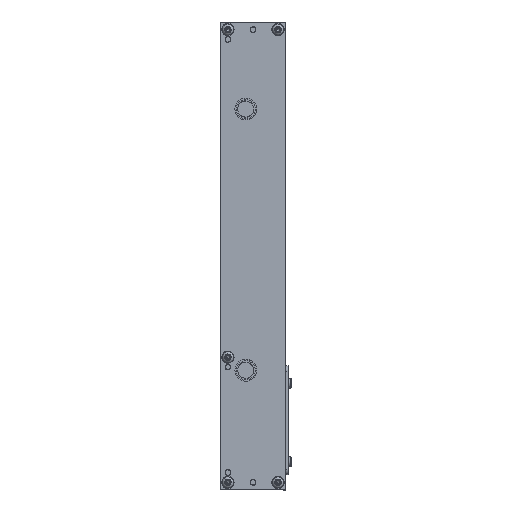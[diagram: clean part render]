
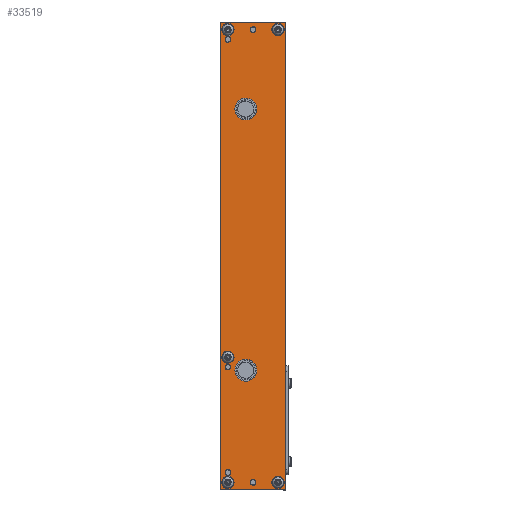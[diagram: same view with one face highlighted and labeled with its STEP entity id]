
A CAD part, left-side view. The second image highlights one B-rep face of the part: STEP entity #33519.
In plain terms, the highlighted planar face has unit normal (-1, 0, 0).
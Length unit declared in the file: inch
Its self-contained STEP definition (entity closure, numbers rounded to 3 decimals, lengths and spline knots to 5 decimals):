
#32388=CARTESIAN_POINT('',(0.,1.325,10.2875));
#32389=VERTEX_POINT('',#32388);
#32390=CARTESIAN_POINT('',(0.,1.325,10.35));
#32391=DIRECTION('',(1.0,0.0,0.0));
#32392=DIRECTION('',(0.0,0.0,-1.0));
#32393=AXIS2_PLACEMENT_3D('',#32390,#32391,#32392);
#32394=CIRCLE('',#32393,0.0625);
#32395=EDGE_CURVE('',#32389,#32389,#32394,.T.);
#32416=CARTESIAN_POINT('',(0.0,0.75,10.5125));
#32417=VERTEX_POINT('',#32416);
#32418=CARTESIAN_POINT('',(0.0,0.75,10.575));
#32419=DIRECTION('',(1.0,0.0,0.0));
#32420=DIRECTION('',(0.0,0.0,-1.0));
#32421=AXIS2_PLACEMENT_3D('',#32418,#32419,#32420);
#32422=CIRCLE('',#32421,0.0625);
#32423=EDGE_CURVE('',#32417,#32417,#32422,.T.);
#32444=CARTESIAN_POINT('',(0.0,0.75,0.1125));
#32445=VERTEX_POINT('',#32444);
#32446=CARTESIAN_POINT('',(0.0,0.75,0.175));
#32447=DIRECTION('',(1.0,0.0,0.0));
#32448=DIRECTION('',(0.0,0.0,-1.0));
#32449=AXIS2_PLACEMENT_3D('',#32446,#32447,#32448);
#32450=CIRCLE('',#32449,0.0625);
#32451=EDGE_CURVE('',#32445,#32445,#32450,.T.);
#32472=CARTESIAN_POINT('',(0.,1.325,0.3375));
#32473=VERTEX_POINT('',#32472);
#32474=CARTESIAN_POINT('',(0.,1.325,0.4));
#32475=DIRECTION('',(1.0,0.0,0.0));
#32476=DIRECTION('',(0.0,0.0,-1.0));
#32477=AXIS2_PLACEMENT_3D('',#32474,#32475,#32476);
#32478=CIRCLE('',#32477,0.0625);
#32479=EDGE_CURVE('',#32473,#32473,#32478,.T.);
#32517=CARTESIAN_POINT('',(0.,1.46563,3.05));
#32518=VERTEX_POINT('',#32517);
#32519=CARTESIAN_POINT('',(0.,1.325,3.05));
#32520=DIRECTION('',(1.0,0.0,0.0));
#32521=DIRECTION('',(0.0,1.0,0.0));
#32522=AXIS2_PLACEMENT_3D('',#32519,#32520,#32521);
#32523=CIRCLE('',#32522,0.14063);
#32524=EDGE_CURVE('',#32518,#32518,#32523,.T.);
#32762=CARTESIAN_POINT('',(0.,1.3795,2.825));
#32763=VERTEX_POINT('',#32762);
#32764=CARTESIAN_POINT('',(0.,1.325,2.825));
#32765=DIRECTION('',(1.0,0.0,0.0));
#32766=DIRECTION('',(0.0,-1.0,0.0));
#32767=AXIS2_PLACEMENT_3D('',#32764,#32765,#32766);
#32768=CIRCLE('',#32767,0.0545);
#32769=EDGE_CURVE('',#32763,#32763,#32768,.T.);
#32801=CARTESIAN_POINT('',(0.,0.915,8.59375));
#32802=VERTEX_POINT('',#32801);
#32803=CARTESIAN_POINT('',(0.,0.915,8.75));
#32804=DIRECTION('',(1.0,0.0,0.0));
#32805=DIRECTION('',(0.0,0.0,-1.0));
#32806=AXIS2_PLACEMENT_3D('',#32803,#32804,#32805);
#32807=CIRCLE('',#32806,0.15625);
#32808=EDGE_CURVE('',#32802,#32802,#32807,.T.);
#32829=CARTESIAN_POINT('',(0.,0.915,2.59375));
#32830=VERTEX_POINT('',#32829);
#32831=CARTESIAN_POINT('',(0.,0.915,2.75));
#32832=DIRECTION('',(1.0,0.0,0.0));
#32833=DIRECTION('',(0.0,0.0,-1.0));
#32834=AXIS2_PLACEMENT_3D('',#32831,#32832,#32833);
#32835=CIRCLE('',#32834,0.15625);
#32836=EDGE_CURVE('',#32830,#32830,#32835,.T.);
#32874=CARTESIAN_POINT('',(0.,0.31563,0.175));
#32875=VERTEX_POINT('',#32874);
#32876=CARTESIAN_POINT('',(0.,0.175,0.175));
#32877=DIRECTION('',(1.0,0.0,0.0));
#32878=DIRECTION('',(0.0,1.0,0.0));
#32879=AXIS2_PLACEMENT_3D('',#32876,#32877,#32878);
#32880=CIRCLE('',#32879,0.14063);
#32881=EDGE_CURVE('',#32875,#32875,#32880,.T.);
#32922=CARTESIAN_POINT('',(0.,1.46563,0.175));
#32923=VERTEX_POINT('',#32922);
#32924=CARTESIAN_POINT('',(0.,1.325,0.175));
#32925=DIRECTION('',(1.0,0.0,0.0));
#32926=DIRECTION('',(0.0,1.0,0.0));
#32927=AXIS2_PLACEMENT_3D('',#32924,#32925,#32926);
#32928=CIRCLE('',#32927,0.14063);
#32929=EDGE_CURVE('',#32923,#32923,#32928,.T.);
#32970=CARTESIAN_POINT('',(0.,0.31562,10.575));
#32971=VERTEX_POINT('',#32970);
#32972=CARTESIAN_POINT('',(0.,0.175,10.575));
#32973=DIRECTION('',(1.0,0.0,0.0));
#32974=DIRECTION('',(0.0,1.0,0.0));
#32975=AXIS2_PLACEMENT_3D('',#32972,#32973,#32974);
#32976=CIRCLE('',#32975,0.14063);
#32977=EDGE_CURVE('',#32971,#32971,#32976,.T.);
#33018=CARTESIAN_POINT('',(0.,1.46563,10.575));
#33019=VERTEX_POINT('',#33018);
#33020=CARTESIAN_POINT('',(0.,1.325,10.575));
#33021=DIRECTION('',(1.0,0.0,0.0));
#33022=DIRECTION('',(0.0,1.0,0.0));
#33023=AXIS2_PLACEMENT_3D('',#33020,#33021,#33022);
#33024=CIRCLE('',#33023,0.14063);
#33025=EDGE_CURVE('',#33019,#33019,#33024,.T.);
#33338=CARTESIAN_POINT('',(0.,0.,10.75));
#33339=VERTEX_POINT('',#33338);
#33340=CARTESIAN_POINT('',(0.,0.,0.));
#33341=VERTEX_POINT('',#33340);
#33342=CARTESIAN_POINT('',(0.,0.,10.75));
#33343=DIRECTION('',(0.0,0.0,-1.0));
#33344=VECTOR('',#33343,10.75);
#33345=LINE('',#33342,#33344);
#33346=EDGE_CURVE('',#33339,#33341,#33345,.T.);
#33387=CARTESIAN_POINT('',(0.,1.5,0.));
#33388=VERTEX_POINT('',#33387);
#33389=CARTESIAN_POINT('',(0.,0.,0.));
#33390=DIRECTION('',(0.0,1.0,0.0));
#33391=VECTOR('',#33390,1.5);
#33392=LINE('',#33389,#33391);
#33393=EDGE_CURVE('',#33341,#33388,#33392,.T.);
#33418=CARTESIAN_POINT('',(0.,1.5,10.75));
#33419=VERTEX_POINT('',#33418);
#33420=CARTESIAN_POINT('',(0.,1.5,0.));
#33421=DIRECTION('',(0.0,0.0,1.0));
#33422=VECTOR('',#33421,10.75);
#33423=LINE('',#33420,#33422);
#33424=EDGE_CURVE('',#33388,#33419,#33423,.T.);
#33455=CARTESIAN_POINT('',(0.,1.5,10.75));
#33456=DIRECTION('',(0.0,-1.0,0.0));
#33457=VECTOR('',#33456,1.5);
#33458=LINE('',#33455,#33457);
#33459=EDGE_CURVE('',#33419,#33339,#33458,.T.);
#33472=CARTESIAN_POINT('',(0.0,0.75,5.375));
#33473=DIRECTION('',(1.0,0.0,0.0));
#33474=DIRECTION('',(0.0,0.0,1.0));
#33475=AXIS2_PLACEMENT_3D('',#33472,#33473,#33474);
#33476=PLANE('',#33475);
#33477=ORIENTED_EDGE('',*,*,#33346,.F.);
#33478=ORIENTED_EDGE('',*,*,#33459,.F.);
#33479=ORIENTED_EDGE('',*,*,#33424,.F.);
#33480=ORIENTED_EDGE('',*,*,#33393,.F.);
#33481=EDGE_LOOP('',(#33477,#33478,#33479,#33480));
#33482=FACE_OUTER_BOUND('',#33481,.T.);
#33483=ORIENTED_EDGE('',*,*,#32395,.T.);
#33484=EDGE_LOOP('',(#33483));
#33485=FACE_BOUND('',#33484,.T.);
#33486=ORIENTED_EDGE('',*,*,#32423,.T.);
#33487=EDGE_LOOP('',(#33486));
#33488=FACE_BOUND('',#33487,.T.);
#33489=ORIENTED_EDGE('',*,*,#32451,.T.);
#33490=EDGE_LOOP('',(#33489));
#33491=FACE_BOUND('',#33490,.T.);
#33492=ORIENTED_EDGE('',*,*,#32479,.T.);
#33493=EDGE_LOOP('',(#33492));
#33494=FACE_BOUND('',#33493,.T.);
#33495=ORIENTED_EDGE('',*,*,#32524,.T.);
#33496=EDGE_LOOP('',(#33495));
#33497=FACE_BOUND('',#33496,.T.);
#33498=ORIENTED_EDGE('',*,*,#32769,.T.);
#33499=EDGE_LOOP('',(#33498));
#33500=FACE_BOUND('',#33499,.T.);
#33501=ORIENTED_EDGE('',*,*,#32808,.T.);
#33502=EDGE_LOOP('',(#33501));
#33503=FACE_BOUND('',#33502,.T.);
#33504=ORIENTED_EDGE('',*,*,#32836,.T.);
#33505=EDGE_LOOP('',(#33504));
#33506=FACE_BOUND('',#33505,.T.);
#33507=ORIENTED_EDGE('',*,*,#32881,.T.);
#33508=EDGE_LOOP('',(#33507));
#33509=FACE_BOUND('',#33508,.T.);
#33510=ORIENTED_EDGE('',*,*,#32929,.T.);
#33511=EDGE_LOOP('',(#33510));
#33512=FACE_BOUND('',#33511,.T.);
#33513=ORIENTED_EDGE('',*,*,#32977,.T.);
#33514=EDGE_LOOP('',(#33513));
#33515=FACE_BOUND('',#33514,.T.);
#33516=ORIENTED_EDGE('',*,*,#33025,.T.);
#33517=EDGE_LOOP('',(#33516));
#33518=FACE_BOUND('',#33517,.T.);
#33519=ADVANCED_FACE('',(#33482,#33485,#33488,#33491,#33494,#33497,#33500,#33503,#33506,#33509,#33512,#33515,#33518),#33476,.F.);
